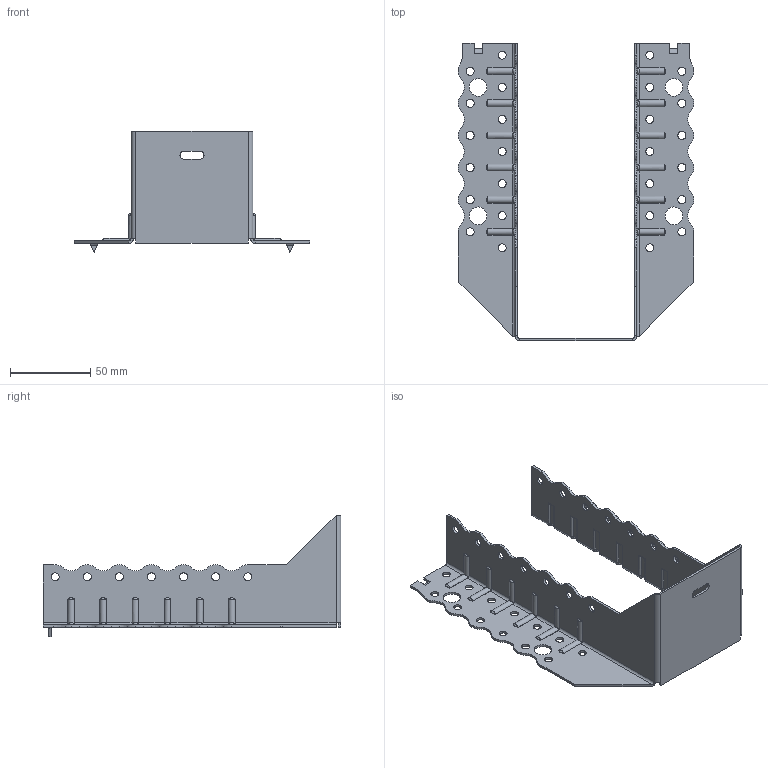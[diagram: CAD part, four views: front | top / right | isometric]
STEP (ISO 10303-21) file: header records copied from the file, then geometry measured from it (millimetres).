
FILE_DESCRIPTION (( 'STEP AP203' ), '1' );
FILE_NAME ('30625TOP.STEP', '2021-04-07T13:20:30', ( '' ), ( '' ), 'SwSTEP 2.0', 'SolidWorks 2013', '' );
FILE_SCHEMA (( 'CONFIG_CONTROL_DESIGN' ));
Length unit declared in the file: millimetre
Products named in the file (1): 30625TOP
Bounding box: 147 x 185.5 x 76 mm (x, y, z)
Volume: 44942.3 mm3; surface area: 63851 mm2
Topology: 1 solids, 1 shells, 498 faces, 1348 edges, 852 vertices
Faces by surface type: cylinder 317, plane 133, torus 24, bspline 24
Entity records: 18595 total; most frequent: CARTESIAN_POINT 5929, ORIENTED_EDGE 2696, DIRECTION 2596, EDGE_CURVE 1348, AXIS2_PLACEMENT_3D 949, VERTEX_POINT 852, VECTOR 698, LINE 698
